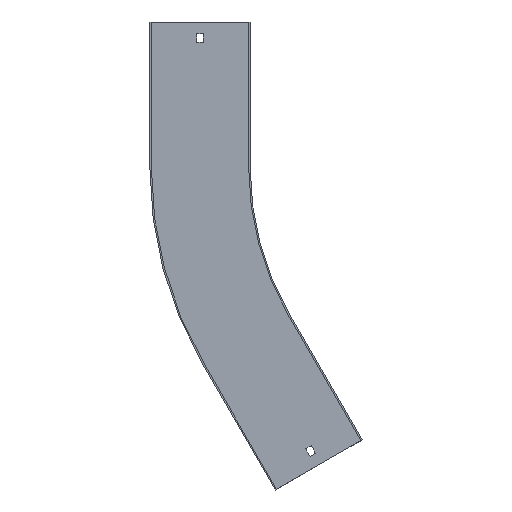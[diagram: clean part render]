
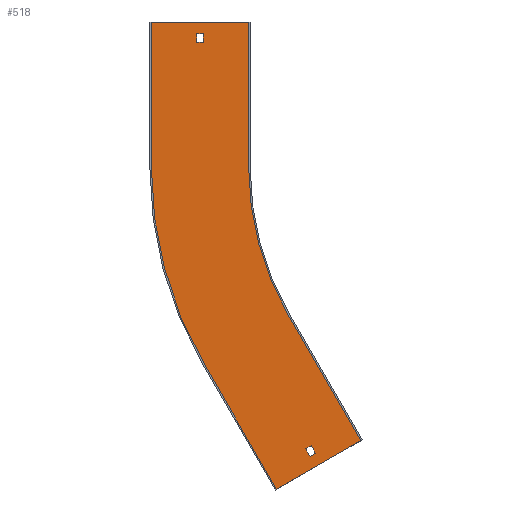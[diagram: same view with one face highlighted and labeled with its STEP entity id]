
A CAD part, front view. The second image highlights one B-rep face of the part: STEP entity #518.
In plain terms, the highlighted planar face has unit normal (0, -1, 0).
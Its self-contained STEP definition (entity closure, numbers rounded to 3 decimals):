
#8 = ORIENTED_EDGE ( 'NONE', *, *, #480, .F. ) ;
#12 = CIRCLE ( 'NONE', #513, 300. ) ;
#15 = CARTESIAN_POINT ( 'NONE',  ( 64.5, -1.5, -111.717 ) ) ;
#22 = CARTESIAN_POINT ( 'NONE',  ( 0., -1.5, 129. ) ) ;
#25 = DIRECTION ( 'NONE',  ( 0.5, 0., -0.866 ) ) ;
#42 = VECTOR ( 'NONE', #235, 1000. ) ;
#43 = EDGE_CURVE ( 'NONE', #388, #526, #503, .T. ) ;
#46 = EDGE_CURVE ( 'NONE', #782, #395, #566, .T. ) ;
#67 = LINE ( 'NONE', #336, #212 ) ;
#70 = EDGE_LOOP ( 'NONE', ( #523, #599, #181, #255, #601, #655, #462, #685 ) ) ;
#75 = CARTESIAN_POINT ( 'NONE',  ( -236.923, -1.5, -296.137 ) ) ;
#104 = VECTOR ( 'NONE', #409, 1000. ) ;
#119 = EDGE_CURVE ( 'NONE', #395, #194, #342, .T. ) ;
#125 = VECTOR ( 'NONE', #146, 1000. ) ;
#146 = DIRECTION ( 'NONE',  ( 0.5, 0., -0.866 ) ) ;
#150 = EDGE_CURVE ( 'NONE', #843, #644, #67, .T. ) ;
#157 = VERTEX_POINT ( 'NONE', #705 ) ;
#160 = CARTESIAN_POINT ( 'NONE',  ( -271.41, -1.5, -329.904 ) ) ;
#163 = LINE ( 'NONE', #585, #468 ) ;
#165 = CARTESIAN_POINT ( 'NONE',  ( -305.923, -1.5, -176.625 ) ) ;
#181 = ORIENTED_EDGE ( 'NONE', *, *, #186, .F. ) ;
#182 = VECTOR ( 'NONE', #370, 1000. ) ;
#186 = EDGE_CURVE ( 'NONE', #516, #648, #442, .T. ) ;
#193 = EDGE_CURVE ( 'NONE', #260, #157, #738, .T. ) ;
#194 = VERTEX_POINT ( 'NONE', #398 ) ;
#197 = ORIENTED_EDGE ( 'NONE', *, *, #373, .T. ) ;
#212 = VECTOR ( 'NONE', #863, 1000. ) ;
#221 = EDGE_CURVE ( 'NONE', #282, #825, #12, .T. ) ;
#225 = EDGE_CURVE ( 'NONE', #825, #563, #810, .T. ) ;
#229 = CARTESIAN_POINT ( 'NONE',  ( -400., -1.5, 0. ) ) ;
#235 = DIRECTION ( 'NONE',  ( -1., 0., 0. ) ) ;
#237 = CARTESIAN_POINT ( 'NONE',  ( 0., -1.5, 0. ) ) ;
#242 = CARTESIAN_POINT ( 'NONE',  ( -300.294, -1.5, -173.375 ) ) ;
#243 = LINE ( 'NONE', #371, #383 ) ;
#245 = VECTOR ( 'NONE', #295, 1000. ) ;
#246 = PLANE ( 'NONE',  #642 ) ;
#254 = VECTOR ( 'NONE', #25, 1000. ) ;
#255 = ORIENTED_EDGE ( 'NONE', *, *, #469, .F. ) ;
#260 = VERTEX_POINT ( 'NONE', #263 ) ;
#263 = CARTESIAN_POINT ( 'NONE',  ( -235.794, -1.5, -285.092 ) ) ;
#265 = VECTOR ( 'NONE', #403, 1000. ) ;
#280 = DIRECTION ( 'NONE',  ( 0., 0., -1. ) ) ;
#282 = VERTEX_POINT ( 'NONE', #546 ) ;
#295 = DIRECTION ( 'NONE',  ( 1., 0., 0. ) ) ;
#296 = CARTESIAN_POINT ( 'NONE',  ( -353.25, -1.5, 138. ) ) ;
#303 = CARTESIAN_POINT ( 'NONE',  ( -184.808, -1.5, -279.904 ) ) ;
#304 = FACE_OUTER_BOUND ( 'NONE', #70, .T. ) ;
#329 = EDGE_CURVE ( 'NONE', #851, #782, #509, .T. ) ;
#333 = ORIENTED_EDGE ( 'NONE', *, *, #329, .T. ) ;
#336 = CARTESIAN_POINT ( 'NONE',  ( 69., -1.5, -119.512 ) ) ;
#339 = CARTESIAN_POINT ( 'NONE',  ( -231.294, -1.5, -292.887 ) ) ;
#342 = LINE ( 'NONE', #737, #349 ) ;
#345 = CARTESIAN_POINT ( 'NONE',  ( -400., -1.5, 0. ) ) ;
#349 = VECTOR ( 'NONE', #683, 1000. ) ;
#357 = CARTESIAN_POINT ( 'NONE',  ( 0., -1.5, 0. ) ) ;
#358 = LINE ( 'NONE', #582, #567 ) ;
#361 = CARTESIAN_POINT ( 'NONE',  ( -346.41, -1.5, -200. ) ) ;
#370 = DIRECTION ( 'NONE',  ( 0., 0., -1. ) ) ;
#371 = CARTESIAN_POINT ( 'NONE',  ( -300., -1.5, 150. ) ) ;
#372 = CARTESIAN_POINT ( 'NONE',  ( -300., -1.5, 150. ) ) ;
#373 = EDGE_CURVE ( 'NONE', #194, #851, #564, .T. ) ;
#383 = VECTOR ( 'NONE', #635, 1000. ) ;
#385 = DIRECTION ( 'NONE',  ( -0.866, 0., -0.5 ) ) ;
#388 = VERTEX_POINT ( 'NONE', #637 ) ;
#394 = VERTEX_POINT ( 'NONE', #160 ) ;
#395 = VERTEX_POINT ( 'NONE', #296 ) ;
#396 = EDGE_CURVE ( 'NONE', #644, #260, #834, .T. ) ;
#397 = EDGE_CURVE ( 'NONE', #648, #388, #818, .T. ) ;
#398 = CARTESIAN_POINT ( 'NONE',  ( -346.75, -1.5, 138. ) ) ;
#399 = ORIENTED_EDGE ( 'NONE', *, *, #119, .T. ) ;
#403 = DIRECTION ( 'NONE',  ( -0.866, 0., -0.5 ) ) ;
#409 = DIRECTION ( 'NONE',  ( 0., 0., 1. ) ) ;
#417 = CARTESIAN_POINT ( 'NONE',  ( -353.25, -1.5, 129. ) ) ;
#423 = EDGE_LOOP ( 'NONE', ( #399, #197, #333, #534 ) ) ;
#436 = DIRECTION ( 'NONE',  ( 0., 1., 0. ) ) ;
#442 = CIRCLE ( 'NONE', #614, 400. ) ;
#462 = ORIENTED_EDGE ( 'NONE', *, *, #221, .F. ) ;
#468 = VECTOR ( 'NONE', #385, 1000. ) ;
#469 = EDGE_CURVE ( 'NONE', #394, #516, #358, .T. ) ;
#475 = DIRECTION ( 'NONE',  ( 0., -1., 0. ) ) ;
#480 = EDGE_CURVE ( 'NONE', #157, #843, #836, .T. ) ;
#499 = CARTESIAN_POINT ( 'NONE',  ( -346.75, -1.5, 0. ) ) ;
#503 = LINE ( 'NONE', #688, #245 ) ;
#505 = DIRECTION ( 'NONE',  ( 0., -1., 0. ) ) ;
#509 = LINE ( 'NONE', #22, #42 ) ;
#513 = AXIS2_PLACEMENT_3D ( 'NONE', #558, #475, #612 ) ;
#516 = VERTEX_POINT ( 'NONE', #361 ) ;
#518 = ADVANCED_FACE ( 'NONE', ( #629, #304, #824 ), #246, .T. ) ;
#521 = CARTESIAN_POINT ( 'NONE',  ( -259.808, -1.5, -150. ) ) ;
#523 = ORIENTED_EDGE ( 'NONE', *, *, #43, .F. ) ;
#526 = VERTEX_POINT ( 'NONE', #372 ) ;
#534 = ORIENTED_EDGE ( 'NONE', *, *, #46, .T. ) ;
#546 = CARTESIAN_POINT ( 'NONE',  ( -300., -1.5, 0. ) ) ;
#549 = CARTESIAN_POINT ( 'NONE',  ( -353.25, -1.5, 0. ) ) ;
#550 = EDGE_CURVE ( 'NONE', #526, #282, #243, .T. ) ;
#558 = CARTESIAN_POINT ( 'NONE',  ( 0., -1.5, 0. ) ) ;
#563 = VERTEX_POINT ( 'NONE', #303 ) ;
#564 = LINE ( 'NONE', #499, #182 ) ;
#566 = LINE ( 'NONE', #549, #104 ) ;
#567 = VECTOR ( 'NONE', #638, 1000. ) ;
#582 = CARTESIAN_POINT ( 'NONE',  ( -271.41, -1.5, -329.904 ) ) ;
#585 = CARTESIAN_POINT ( 'NONE',  ( -183.509, -1.5, -279.154 ) ) ;
#599 = ORIENTED_EDGE ( 'NONE', *, *, #397, .F. ) ;
#601 = ORIENTED_EDGE ( 'NONE', *, *, #822, .F. ) ;
#612 = DIRECTION ( 'NONE',  ( 0., 0., -1. ) ) ;
#613 = ORIENTED_EDGE ( 'NONE', *, *, #396, .F. ) ;
#614 = AXIS2_PLACEMENT_3D ( 'NONE', #357, #436, #280 ) ;
#629 = FACE_BOUND ( 'NONE', #676, .T. ) ;
#630 = VECTOR ( 'NONE', #758, 1000. ) ;
#635 = DIRECTION ( 'NONE',  ( 0., 0., -1. ) ) ;
#637 = CARTESIAN_POINT ( 'NONE',  ( -400., -1.5, 150. ) ) ;
#638 = DIRECTION ( 'NONE',  ( -0.5, 0., 0.866 ) ) ;
#642 = AXIS2_PLACEMENT_3D ( 'NONE', #237, #505, #759 ) ;
#644 = VERTEX_POINT ( 'NONE', #339 ) ;
#648 = VERTEX_POINT ( 'NONE', #345 ) ;
#650 = VECTOR ( 'NONE', #768, 1000. ) ;
#655 = ORIENTED_EDGE ( 'NONE', *, *, #225, .F. ) ;
#676 = EDGE_LOOP ( 'NONE', ( #613, #771, #8, #733 ) ) ;
#683 = DIRECTION ( 'NONE',  ( 1., 0., 0. ) ) ;
#685 = ORIENTED_EDGE ( 'NONE', *, *, #550, .F. ) ;
#688 = CARTESIAN_POINT ( 'NONE',  ( -401.5, -1.5, 150. ) ) ;
#705 = CARTESIAN_POINT ( 'NONE',  ( -241.423, -1.5, -288.342 ) ) ;
#733 = ORIENTED_EDGE ( 'NONE', *, *, #193, .F. ) ;
#737 = CARTESIAN_POINT ( 'NONE',  ( 0., -1.5, 138. ) ) ;
#738 = LINE ( 'NONE', #15, #265 ) ;
#745 = CARTESIAN_POINT ( 'NONE',  ( -346.75, -1.5, 129. ) ) ;
#758 = DIRECTION ( 'NONE',  ( 0., 0., 1. ) ) ;
#759 = DIRECTION ( 'NONE',  ( 0., 0., -1. ) ) ;
#768 = DIRECTION ( 'NONE',  ( -0.5, 0., 0.866 ) ) ;
#771 = ORIENTED_EDGE ( 'NONE', *, *, #150, .F. ) ;
#782 = VERTEX_POINT ( 'NONE', #417 ) ;
#810 = LINE ( 'NONE', #859, #125 ) ;
#818 = LINE ( 'NONE', #229, #630 ) ;
#822 = EDGE_CURVE ( 'NONE', #563, #394, #163, .T. ) ;
#824 = FACE_BOUND ( 'NONE', #423, .T. ) ;
#825 = VERTEX_POINT ( 'NONE', #521 ) ;
#834 = LINE ( 'NONE', #242, #650 ) ;
#836 = LINE ( 'NONE', #165, #254 ) ;
#843 = VERTEX_POINT ( 'NONE', #75 ) ;
#851 = VERTEX_POINT ( 'NONE', #745 ) ;
#859 = CARTESIAN_POINT ( 'NONE',  ( -259.808, -1.5, -150. ) ) ;
#863 = DIRECTION ( 'NONE',  ( 0.866, 0., 0.5 ) ) ;
